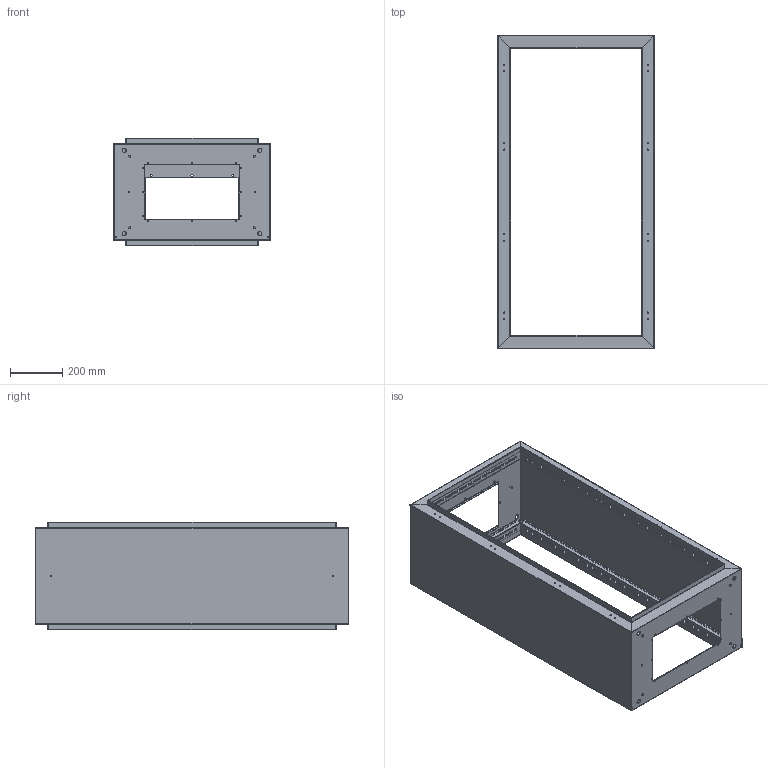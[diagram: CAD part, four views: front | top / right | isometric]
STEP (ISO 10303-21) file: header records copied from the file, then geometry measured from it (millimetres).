
FILE_DESCRIPTION (( 'STEP AP203' ), '1' );
FILE_NAME ('600x1200x400.STEP', '2021-11-11T16:38:00', ( '' ), ( '' ), 'SwSTEP 2.0', 'SolidWorks 2019', '' );
FILE_SCHEMA (( 'CONFIG_CONTROL_DESIGN' ));
Products named in the file (4): Alt Kapak 1,5mm_monoblok_tekkapakrevize_PP 16.1018 600Gx400D ALT; Yan Kapak 1,5mm_monoblok_tekkapakrevize_PP 16.1001 - 1200Yx400D YAN; Üst Kapak 1,5mm_monoblok_tekkapakrevize_PP 16.1009 600Gx400D šST; 600x1200x400
Assembly tree (4 placements, depth 2):
  600x1200x400
    Alt Kapak 1,5mm_monoblok_tekkapakrevize_PP 16.1018 600Gx400D ALT
    Üst Kapak 1,5mm_monoblok_tekkapakrevize_PP 16.1009 600Gx400D šST
    Yan Kapak 1,5mm_monoblok_tekkapakrevize_PP 16.1001 - 1200Yx400D YAN  x2
Bounding box: 600 x 1200 x 411.95 mm (x, y, z)
Volume: 3160548.3 mm3; surface area: 4274700.7 mm2
Topology: 4 solids, 4 shells, 3500 faces, 10212 edges, 6728 vertices
Faces by surface type: plane 2252, cylinder 1232, bspline 16
Entity records: 81386 total; most frequent: CARTESIAN_POINT 14255, ORIENTED_EDGE 13744, DIRECTION 13198, EDGE_CURVE 6872, LINE 5216, VECTOR 5216, VERTEX_POINT 4520, AXIS2_PLACEMENT_3D 3991
